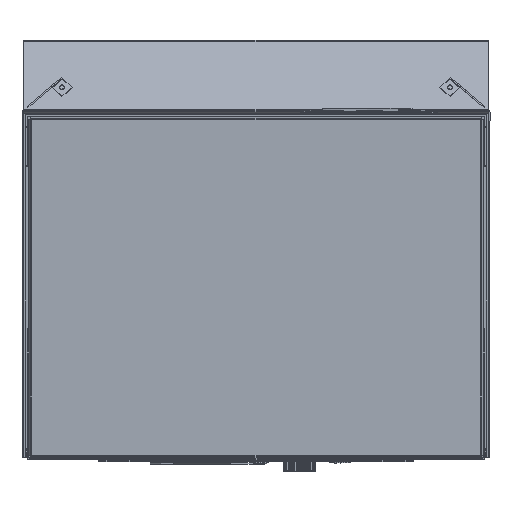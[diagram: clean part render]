
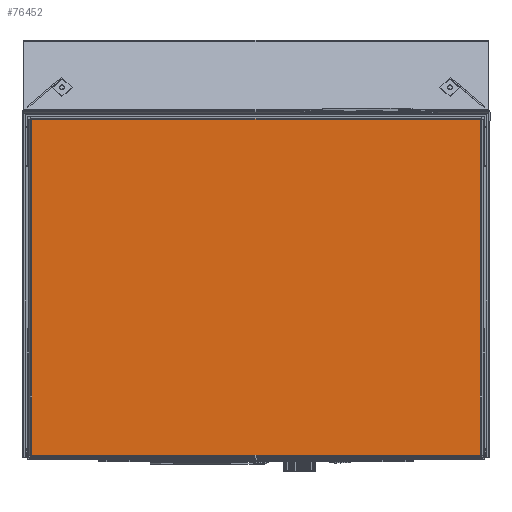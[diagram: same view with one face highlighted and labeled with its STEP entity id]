
A CAD part, front view. The second image highlights one B-rep face of the part: STEP entity #76452.
In plain terms, the highlighted planar face has unit normal (0, -1, 0).
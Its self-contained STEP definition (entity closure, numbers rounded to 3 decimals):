
#8283 = CARTESIAN_POINT ( 'NONE',  ( 196.206, -1325.388, 297.835 ) ) ;
#14751 = CARTESIAN_POINT ( 'NONE',  ( 196.206, -1325.388, 4.471 ) ) ;
#16997 = VECTOR ( 'NONE', #94300, 1000. ) ;
#23225 = CARTESIAN_POINT ( 'NONE',  ( 197., -1325.388, 300.153 ) ) ;
#30628 = AXIS2_PLACEMENT_3D ( 'NONE', #23225, #160384, #42989 ) ;
#38306 = VERTEX_POINT ( 'NONE', #14751 ) ;
#42989 = DIRECTION ( 'NONE',  ( 1., 0., 0. ) ) ;
#47514 = VECTOR ( 'NONE', #251403, 1000. ) ;
#54902 = CARTESIAN_POINT ( 'NONE',  ( -196.206, -1325.388, 297.835 ) ) ;
#75394 = LINE ( 'NONE', #54902, #16997 ) ;
#76452 = ADVANCED_FACE ( 'NONE', ( #222344 ), #199017, .F. ) ;
#82922 = VERTEX_POINT ( 'NONE', #162466 ) ;
#84474 = CARTESIAN_POINT ( 'NONE',  ( -196.206, -1325.388, 4.471 ) ) ;
#94300 = DIRECTION ( 'NONE',  ( 0., 0., -1. ) ) ;
#96887 = VERTEX_POINT ( 'NONE', #84474 ) ;
#107602 = ORIENTED_EDGE ( 'NONE', *, *, #169158, .T. ) ;
#114316 = CARTESIAN_POINT ( 'NONE',  ( 197., -1325.388, 4.471 ) ) ;
#118399 = CARTESIAN_POINT ( 'NONE',  ( 196.206, -1325.388, 4.471 ) ) ;
#119688 = VECTOR ( 'NONE', #138920, 1000. ) ;
#120951 = ORIENTED_EDGE ( 'NONE', *, *, #237075, .F. ) ;
#138920 = DIRECTION ( 'NONE',  ( 0., 0., 1. ) ) ;
#160384 = DIRECTION ( 'NONE',  ( 0., 1., 0. ) ) ;
#162466 = CARTESIAN_POINT ( 'NONE',  ( -196.206, -1325.388, 297.835 ) ) ;
#167461 = EDGE_CURVE ( 'NONE', #194409, #82922, #223480, .T. ) ;
#169158 = EDGE_CURVE ( 'NONE', #82922, #96887, #75394, .T. ) ;
#171389 = VECTOR ( 'NONE', #253455, 1000. ) ;
#171893 = LINE ( 'NONE', #118399, #119688 ) ;
#194381 = CARTESIAN_POINT ( 'NONE',  ( 197., -1325.388, 297.835 ) ) ;
#194409 = VERTEX_POINT ( 'NONE', #8283 ) ;
#197840 = LINE ( 'NONE', #114316, #47514 ) ;
#199017 = PLANE ( 'NONE',  #30628 ) ;
#216394 = ORIENTED_EDGE ( 'NONE', *, *, #167461, .T. ) ;
#222344 = FACE_OUTER_BOUND ( 'NONE', #226493, .T. ) ;
#223480 = LINE ( 'NONE', #194381, #171389 ) ;
#226493 = EDGE_LOOP ( 'NONE', ( #107602, #120951, #231697, #216394 ) ) ;
#231697 = ORIENTED_EDGE ( 'NONE', *, *, #253100, .T. ) ;
#237075 = EDGE_CURVE ( 'NONE', #38306, #96887, #197840, .T. ) ;
#251403 = DIRECTION ( 'NONE',  ( -1., 0., 0. ) ) ;
#253100 = EDGE_CURVE ( 'NONE', #38306, #194409, #171893, .T. ) ;
#253455 = DIRECTION ( 'NONE',  ( -1., 0., 0. ) ) ;
